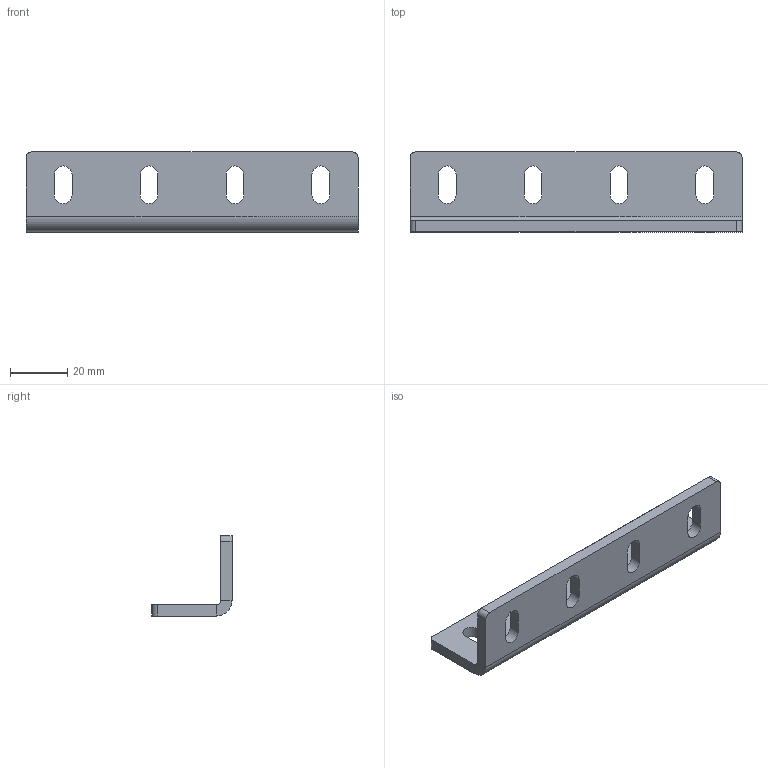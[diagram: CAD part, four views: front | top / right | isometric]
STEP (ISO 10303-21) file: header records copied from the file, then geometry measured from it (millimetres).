
FILE_DESCRIPTION (( 'STEP AP214' ), '1' );
FILE_NAME ('8106s.STEP', '2018-02-25T11:43:07', ( '' ), ( '' ), 'SwSTEP 2.0', 'SolidWorks 2014', '' );
FILE_SCHEMA (( 'AUTOMOTIVE_DESIGN' ));
Length unit declared in the file: millimetre
Products named in the file (2): 8106s
Bounding box: 116 x 28 x 28 mm (x, y, z)
Volume: 21062.3 mm3; surface area: 12920.7 mm2
Topology: 1 solids, 1 shells, 50 faces, 136 edges, 88 vertices
Faces by surface type: plane 28, cylinder 22
Entity records: 1661 total; most frequent: DIRECTION 284, CARTESIAN_POINT 276, ORIENTED_EDGE 272, EDGE_CURVE 136, AXIS2_PLACEMENT_3D 96, LINE 92, VECTOR 92, VERTEX_POINT 88
